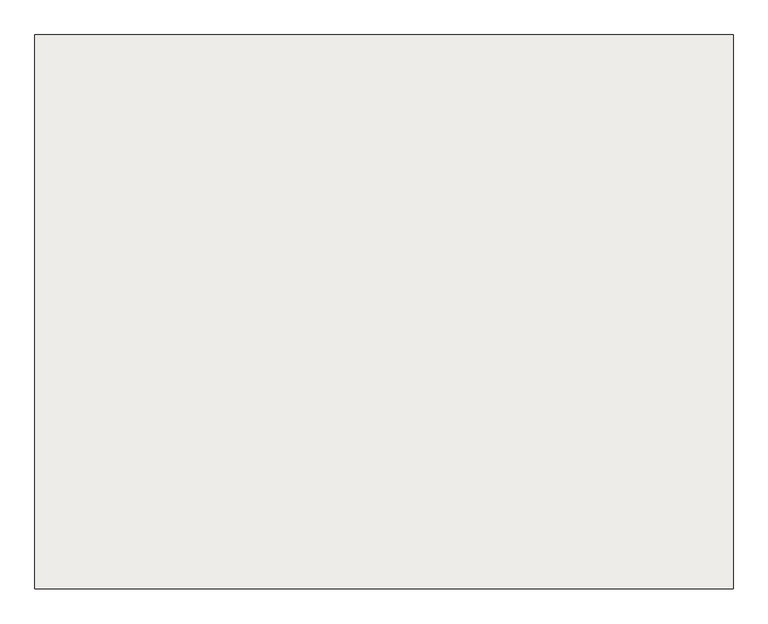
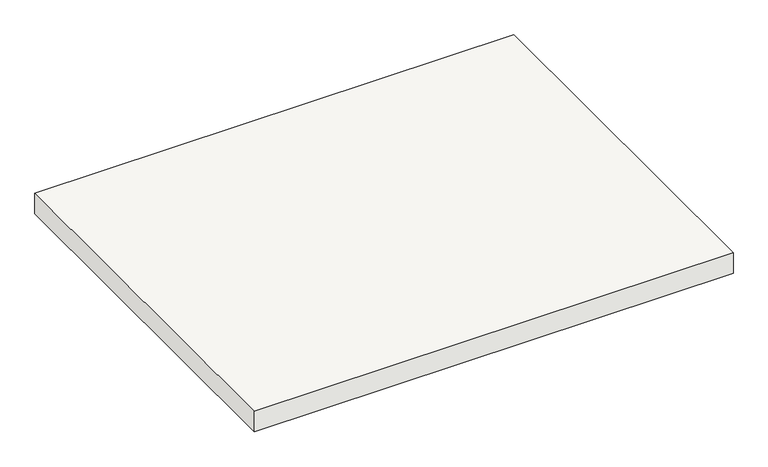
"""IFC4 building model written with IfcOpenShell, lengths in millimetres: slab geometry."""

from ifc_helpers import new_model, si_unit, frame, origin, place, context, project, spatial, polyline, outline, extrude, source, transform, mapped, element, save


def slab_1bbf4d58(model_context):
    return source(origin(), model_context, "Body", "SweptSolid", [
        extrude(outline(polyline([(1119.8, 888.695), (1119.79, -888.695), (-1119.79, -888.695), (-1119.8, 888.695), (1119.8, 888.695)])), frame((0.0, 0.0, -100.0), z_axis=(0.0, 0.0, 1.0), x_axis=(1.0, 0.0, 0.0)), (0.0, 0.0, 1.0), 100.0),
    ])


if __name__ == "__main__":
    model = new_model("IFC4")
    model_context = context("Model", 3, world=origin())
    ifc_project = project(units=[si_unit("LENGTHUNIT", "METRE", prefix="MILLI")], contexts=[model_context])
    site = spatial("IfcSite", under=ifc_project)
    building = spatial("IfcBuilding", under=site)
    placement = place(None, origin())
    slab_shape = slab_1bbf4d58(model_context)
    element("IfcSlab", 1, at=placement, inside=building, context=model_context, shape_type="MappedRepresentation", body=[
        mapped(slab_shape, transform((0.0, 0.0, 0.0), x_axis=(1.0, 0.0, 0.0), y_axis=(0.0, 1.0, 0.0), z_axis=(0.0, 0.0, 1.0))),
    ])
    save(model, "model.ifc")
